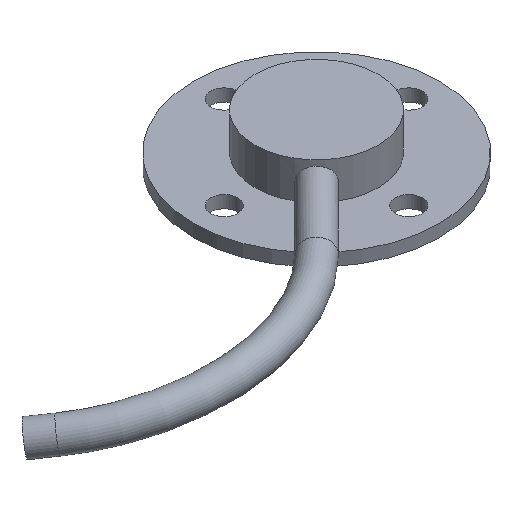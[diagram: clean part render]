
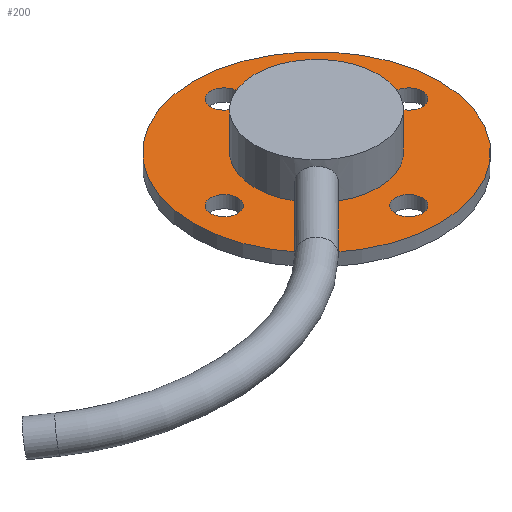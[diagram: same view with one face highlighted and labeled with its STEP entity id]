
A CAD part, isometric view. The second image highlights one B-rep face of the part: STEP entity #200.
In plain terms, the highlighted planar face has unit normal (0, 0, 1).
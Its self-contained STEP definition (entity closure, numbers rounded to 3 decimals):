
#16=PLANE('',#228);
#31=FACE_BOUND('',#89,.T.);
#32=FACE_BOUND('',#90,.T.);
#33=FACE_BOUND('',#91,.T.);
#34=FACE_BOUND('',#92,.T.);
#35=FACE_BOUND('',#93,.T.);
#42=CIRCLE('',#214,1.1);
#44=CIRCLE('',#217,1.1);
#46=CIRCLE('',#220,1.1);
#48=CIRCLE('',#223,1.1);
#50=CIRCLE('',#227,10.);
#51=CIRCLE('',#229,5.);
#63=FACE_OUTER_BOUND('',#88,.T.);
#88=EDGE_LOOP('',(#157));
#89=EDGE_LOOP('',(#158));
#90=EDGE_LOOP('',(#159));
#91=EDGE_LOOP('',(#160));
#92=EDGE_LOOP('',(#161));
#93=EDGE_LOOP('',(#162));
#106=VERTEX_POINT('',#344);
#108=VERTEX_POINT('',#349);
#110=VERTEX_POINT('',#354);
#112=VERTEX_POINT('',#359);
#114=VERTEX_POINT('',#365);
#115=VERTEX_POINT('',#368);
#123=EDGE_CURVE('',#106,#106,#42,.T.);
#125=EDGE_CURVE('',#108,#108,#44,.T.);
#127=EDGE_CURVE('',#110,#110,#46,.T.);
#129=EDGE_CURVE('',#112,#112,#48,.T.);
#131=EDGE_CURVE('',#114,#114,#50,.T.);
#132=EDGE_CURVE('',#115,#115,#51,.T.);
#157=ORIENTED_EDGE('',*,*,#131,.T.);
#158=ORIENTED_EDGE('',*,*,#123,.T.);
#159=ORIENTED_EDGE('',*,*,#125,.T.);
#160=ORIENTED_EDGE('',*,*,#127,.T.);
#161=ORIENTED_EDGE('',*,*,#129,.T.);
#162=ORIENTED_EDGE('',*,*,#132,.F.);
#200=ADVANCED_FACE('',(#63,#31,#32,#33,#34,#35),#16,.T.);
#214=AXIS2_PLACEMENT_3D('',#345,#253,#254);
#217=AXIS2_PLACEMENT_3D('',#350,#259,#260);
#220=AXIS2_PLACEMENT_3D('',#355,#265,#266);
#223=AXIS2_PLACEMENT_3D('',#360,#271,#272);
#227=AXIS2_PLACEMENT_3D('',#366,#279,#280);
#228=AXIS2_PLACEMENT_3D('',#367,#281,#282);
#229=AXIS2_PLACEMENT_3D('',#369,#283,#284);
#253=DIRECTION('center_axis',(0.,0.,-1.));
#254=DIRECTION('ref_axis',(0.,-1.,0.));
#259=DIRECTION('center_axis',(0.,0.,-1.));
#260=DIRECTION('ref_axis',(-1.,0.,0.));
#265=DIRECTION('center_axis',(0.,0.,-1.));
#266=DIRECTION('ref_axis',(0.,1.,0.));
#271=DIRECTION('center_axis',(0.,0.,-1.));
#272=DIRECTION('ref_axis',(1.,0.,0.));
#279=DIRECTION('center_axis',(0.,0.,1.));
#280=DIRECTION('ref_axis',(1.,0.,0.));
#281=DIRECTION('center_axis',(0.,0.,1.));
#282=DIRECTION('ref_axis',(1.,0.,0.));
#283=DIRECTION('center_axis',(0.,0.,1.));
#284=DIRECTION('ref_axis',(1.,0.,0.));
#344=CARTESIAN_POINT('',(7.5,-1.1,1.));
#345=CARTESIAN_POINT('Origin',(7.5,0.,1.));
#349=CARTESIAN_POINT('',(-1.1,-7.5,1.));
#350=CARTESIAN_POINT('Origin',(0.,-7.5,1.));
#354=CARTESIAN_POINT('',(-7.5,1.1,1.));
#355=CARTESIAN_POINT('Origin',(-7.5,0.,1.));
#359=CARTESIAN_POINT('',(1.1,7.5,1.));
#360=CARTESIAN_POINT('Origin',(0.,7.5,1.));
#365=CARTESIAN_POINT('',(10.,0.,1.));
#366=CARTESIAN_POINT('Origin',(0.,0.,1.));
#367=CARTESIAN_POINT('Origin',(7.5,0.,1.));
#368=CARTESIAN_POINT('',(5.,0.,1.));
#369=CARTESIAN_POINT('Origin',(0.,0.,1.));
